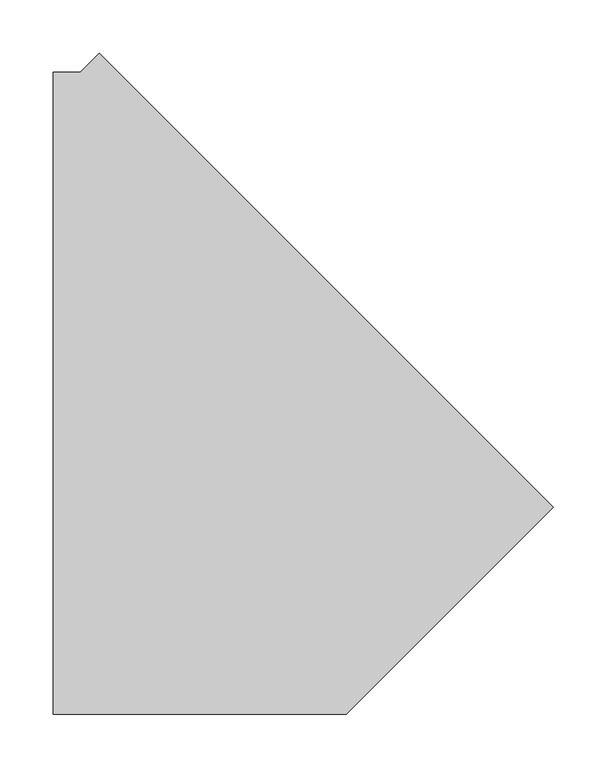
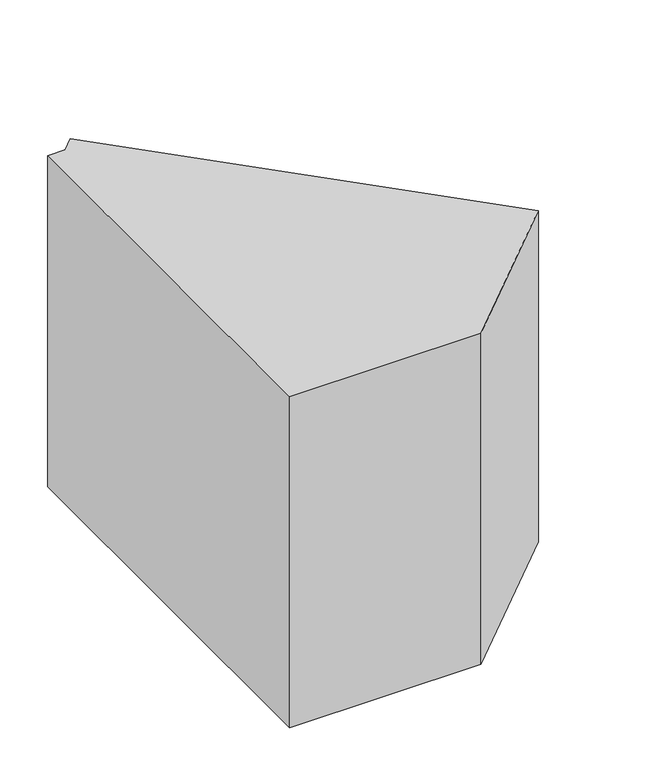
"""IFC4 building model written with IfcOpenShell, lengths in millimetres: duct fitting geometry, 2017_Codo_Climaver_Codo-Rectangular-Biselado : Codo_Rectangular_Biselado_Climaver."""

from ifc_helpers import new_model, si_unit, frame, origin, place, context, project, spatial, polyline, outline, extrude, source, transform, mapped, element, save


def duct_fitting_7812c503(model_context):
    return source(origin(), model_context, "Body", "SweptSolid", [
        extrude(outline(polyline([(-149.2640687, -300.0), (-149.2640687, 300.0), (-124.2640687, 300.0), (-106.5863992, 317.6776695), (317.6776695, -106.5863992), (124.2640687, -300.0), (-149.2640687, -300.0)])), frame((0.0, 0.0, -250.0), z_axis=(0.0, 0.0, 1.0), x_axis=(1.0, 0.0, 0.0)), (0.0, 0.0, 1.0), 500.0),
    ])


if __name__ == "__main__":
    model = new_model("IFC4")
    model_context = context("Model", 3, world=origin())
    ifc_project = project(units=[si_unit("LENGTHUNIT", "METRE", prefix="MILLI")], contexts=[model_context])
    site = spatial("IfcSite", under=ifc_project)
    building = spatial("IfcBuilding", under=site)
    placement = place(None, origin())
    duct_fitting_shape = duct_fitting_7812c503(model_context)
    element("IfcDuctFitting", 1, ObjectType="2017_Codo_Climaver_Codo-Rectangular-Biselado : Codo_Rectangular_Biselado_Climaver", at=placement, inside=building, context=model_context, shape_type="MappedRepresentation", body=[
        mapped(duct_fitting_shape, transform((0.0, 0.0, 0.0), x_axis=(1.0, 0.0, 0.0), y_axis=(0.0, 1.0, 0.0), z_axis=(0.0, 0.0, 1.0))),
    ])
    save(model, "model.ifc")
